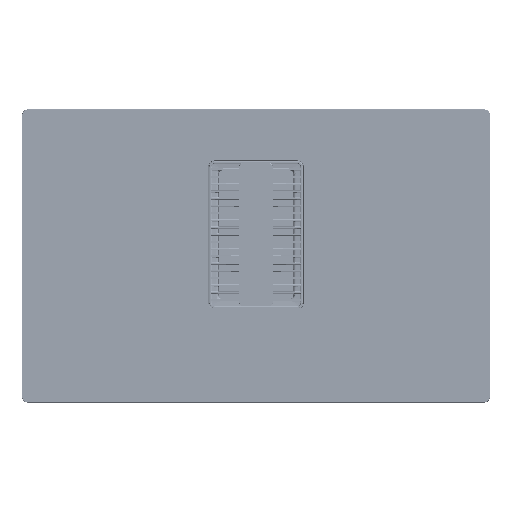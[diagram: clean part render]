
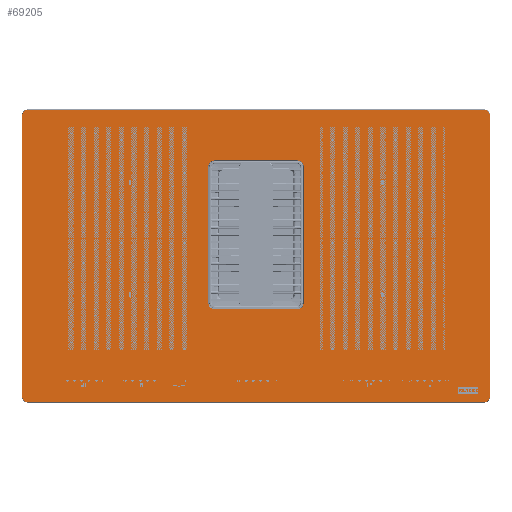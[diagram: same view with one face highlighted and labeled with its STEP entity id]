
A CAD part, top view. The second image highlights one B-rep face of the part: STEP entity #69205.
In plain terms, the highlighted planar face has unit normal (0, 0, 1) as drawn and (0, 1, 0) by its records, which use the part's own axes.
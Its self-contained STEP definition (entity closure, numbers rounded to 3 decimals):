
#30=TRIMMED_CURVE($,#914,(#1513810),(#1513811),.T.,.CARTESIAN.);
#37=TRIMMED_CURVE($,#921,(#1513833),(#1513834),.T.,.CARTESIAN.);
#44=TRIMMED_CURVE($,#928,(#1513856),(#1513857),.T.,.CARTESIAN.);
#51=TRIMMED_CURVE($,#935,(#1513879),(#1513880),.T.,.CARTESIAN.);
#58=TRIMMED_CURVE($,#942,(#1514024),(#1514025),.T.,.CARTESIAN.);
#63=TRIMMED_CURVE($,#947,(#1514039),(#1514040),.T.,.CARTESIAN.);
#67=TRIMMED_CURVE($,#951,(#1514051),(#1514052),.T.,.CARTESIAN.);
#71=TRIMMED_CURVE($,#955,(#1514063),(#1514064),.T.,.CARTESIAN.);
#914=CIRCLE('',#635811,9.372);
#921=CIRCLE('',#635818,9.372);
#928=CIRCLE('',#635825,9.372);
#935=CIRCLE('',#635832,9.372);
#942=CIRCLE('',#635839,11.628);
#947=CIRCLE('',#635844,11.628);
#951=CIRCLE('',#635848,11.628);
#955=CIRCLE('',#635852,11.628);
#3127=FACE_BOUND('',#116650,.T.);
#69205=ADVANCED_FACE('',(#92911,#3127),#611013,.T.);
#92911=FACE_OUTER_BOUND('',#116649,.T.);
#116649=EDGE_LOOP('',(#228670,#228671,#228672,#228673,#228674,#228675,#228676,
#228677));
#116650=EDGE_LOOP('',(#228678,#228679,#228680,#228681,#228682,#228683,#228684,
#228685));
#228670=ORIENTED_EDGE('',*,*,#347301,.T.);
#228671=ORIENTED_EDGE('',*,*,#347310,.T.);
#228672=ORIENTED_EDGE('',*,*,#347304,.T.);
#228673=ORIENTED_EDGE('',*,*,#347318,.T.);
#228674=ORIENTED_EDGE('',*,*,#347303,.T.);
#228675=ORIENTED_EDGE('',*,*,#347326,.T.);
#228676=ORIENTED_EDGE('',*,*,#347302,.T.);
#228677=ORIENTED_EDGE('',*,*,#347334,.T.);
#228678=ORIENTED_EDGE('',*,*,#347308,.T.);
#228679=ORIENTED_EDGE('',*,*,#347408,.T.);
#228680=ORIENTED_EDGE('',*,*,#347307,.T.);
#228681=ORIENTED_EDGE('',*,*,#347412,.T.);
#228682=ORIENTED_EDGE('',*,*,#347306,.T.);
#228683=ORIENTED_EDGE('',*,*,#347416,.T.);
#228684=ORIENTED_EDGE('',*,*,#347305,.T.);
#228685=ORIENTED_EDGE('',*,*,#347403,.T.);
#347301=EDGE_CURVE('',#586528,#586529,#472915,.T.);
#347302=EDGE_CURVE('',#586531,#586530,#472916,.T.);
#347303=EDGE_CURVE('',#586533,#586532,#472917,.T.);
#347304=EDGE_CURVE('',#586535,#586534,#472918,.T.);
#347305=EDGE_CURVE('',#586538,#586536,#472919,.T.);
#347306=EDGE_CURVE('',#586540,#586539,#472920,.T.);
#347307=EDGE_CURVE('',#586542,#586541,#472921,.T.);
#347308=EDGE_CURVE('',#586537,#586543,#472922,.T.);
#347310=EDGE_CURVE('',#586529,#586535,#30,.T.);
#347318=EDGE_CURVE('',#586534,#586533,#37,.T.);
#347326=EDGE_CURVE('',#586532,#586531,#44,.T.);
#347334=EDGE_CURVE('',#586530,#586528,#51,.T.);
#347403=EDGE_CURVE('',#586536,#586537,#58,.T.);
#347408=EDGE_CURVE('',#586543,#586542,#63,.T.);
#347412=EDGE_CURVE('',#586541,#586540,#67,.T.);
#347416=EDGE_CURVE('',#586539,#586538,#71,.T.);
#472915=B_SPLINE_CURVE_WITH_KNOTS('',1,(#1513791,#1513792),
 .UNSPECIFIED.,.F.,.F.,(2,2),(-810.,0.),.UNSPECIFIED.);
#472916=B_SPLINE_CURVE_WITH_KNOTS('',1,(#1513793,#1513794),
 .UNSPECIFIED.,.F.,.F.,(2,2),(-500.,0.),.UNSPECIFIED.);
#472917=B_SPLINE_CURVE_WITH_KNOTS('',1,(#1513795,#1513796),
 .UNSPECIFIED.,.F.,.F.,(2,2),(-810.,0.),.UNSPECIFIED.);
#472918=B_SPLINE_CURVE_WITH_KNOTS('',1,(#1513797,#1513798),
 .UNSPECIFIED.,.F.,.F.,(2,2),(-500.,0.),.UNSPECIFIED.);
#472919=B_SPLINE_CURVE_WITH_KNOTS('',1,(#1513799,#1513800),
 .UNSPECIFIED.,.F.,.F.,(2,2),(-146.,0.),.UNSPECIFIED.);
#472920=B_SPLINE_CURVE_WITH_KNOTS('',1,(#1513801,#1513802),
 .UNSPECIFIED.,.F.,.F.,(2,2),(-241.,0.),.UNSPECIFIED.);
#472921=B_SPLINE_CURVE_WITH_KNOTS('',1,(#1513803,#1513804),
 .UNSPECIFIED.,.F.,.F.,(2,2),(-146.,0.),.UNSPECIFIED.);
#472922=B_SPLINE_CURVE_WITH_KNOTS('',1,(#1513805,#1513806),
 .UNSPECIFIED.,.F.,.F.,(2,2),(-241.,0.),.UNSPECIFIED.);
#586528=VERTEX_POINT('',#1513635);
#586529=VERTEX_POINT('',#1513636);
#586530=VERTEX_POINT('',#1513637);
#586531=VERTEX_POINT('',#1513638);
#586532=VERTEX_POINT('',#1513639);
#586533=VERTEX_POINT('',#1513640);
#586534=VERTEX_POINT('',#1513641);
#586535=VERTEX_POINT('',#1513642);
#586536=VERTEX_POINT('',#1513643);
#586537=VERTEX_POINT('',#1513644);
#586538=VERTEX_POINT('',#1513645);
#586539=VERTEX_POINT('',#1513646);
#586540=VERTEX_POINT('',#1513647);
#586541=VERTEX_POINT('',#1513648);
#586542=VERTEX_POINT('',#1513649);
#586543=VERTEX_POINT('',#1513650);
#611013=PLANE('',#635737);
#635737=AXIS2_PLACEMENT_3D('',#1512589,#660028,$);
#635811=AXIS2_PLACEMENT_3D($,#1513809,#660102,#660103);
#635818=AXIS2_PLACEMENT_3D($,#1513832,#660116,#660117);
#635825=AXIS2_PLACEMENT_3D($,#1513855,#660130,#660131);
#635832=AXIS2_PLACEMENT_3D($,#1513878,#660144,#660145);
#635839=AXIS2_PLACEMENT_3D($,#1514023,#660158,#660159);
#635844=AXIS2_PLACEMENT_3D($,#1514038,#660168,#660169);
#635848=AXIS2_PLACEMENT_3D($,#1514050,#660176,#660177);
#635852=AXIS2_PLACEMENT_3D($,#1514062,#660184,#660185);
#660028=DIRECTION('',(0.,1.,0.));
#660102=DIRECTION('',(0.,1.,0.));
#660103=DIRECTION('',(0.,0.,-1.));
#660116=DIRECTION('',(0.,1.,0.));
#660117=DIRECTION('',(-1.,0.,0.));
#660130=DIRECTION('',(0.,1.,0.));
#660131=DIRECTION('',(0.,0.,1.));
#660144=DIRECTION('',(0.,1.,0.));
#660145=DIRECTION('',(1.,0.,0.));
#660158=DIRECTION('',(0.,-1.,0.));
#660159=DIRECTION('',(0.,0.,-1.));
#660168=DIRECTION('',(0.,-1.,0.));
#660169=DIRECTION('',(1.,0.,0.));
#660176=DIRECTION('',(0.,-1.,0.));
#660177=DIRECTION('',(0.,0.,1.));
#660184=DIRECTION('',(0.,-1.,0.));
#660185=DIRECTION('',(-1.,0.,0.));
#1512589=CARTESIAN_POINT('',(-497.345,0.,311.345));
#1513635=CARTESIAN_POINT('',(405.,0.,-259.372));
#1513636=CARTESIAN_POINT('',(-405.,0.,-259.372));
#1513637=CARTESIAN_POINT('',(414.372,0.,-250.));
#1513638=CARTESIAN_POINT('',(414.372,0.,250.));
#1513639=CARTESIAN_POINT('',(405.,0.,259.372));
#1513640=CARTESIAN_POINT('',(-405.,0.,259.372));
#1513641=CARTESIAN_POINT('',(-414.372,0.,250.));
#1513642=CARTESIAN_POINT('',(-414.372,0.,-250.));
#1513643=CARTESIAN_POINT('',(73.,0.,-169.628));
#1513644=CARTESIAN_POINT('',(84.628,0.,-158.));
#1513645=CARTESIAN_POINT('',(-73.,0.,-169.628));
#1513646=CARTESIAN_POINT('',(-84.628,0.,-158.));
#1513647=CARTESIAN_POINT('',(-84.628,0.,83.));
#1513648=CARTESIAN_POINT('',(-73.,0.,94.628));
#1513649=CARTESIAN_POINT('',(73.,0.,94.628));
#1513650=CARTESIAN_POINT('',(84.628,0.,83.));
#1513791=CARTESIAN_POINT('',(405.,0.,-259.372));
#1513792=CARTESIAN_POINT('',(-405.,0.,-259.372));
#1513793=CARTESIAN_POINT('',(414.372,0.,250.));
#1513794=CARTESIAN_POINT('',(414.372,0.,-250.));
#1513795=CARTESIAN_POINT('',(-405.,0.,259.372));
#1513796=CARTESIAN_POINT('',(405.,0.,259.372));
#1513797=CARTESIAN_POINT('',(-414.372,0.,-250.));
#1513798=CARTESIAN_POINT('',(-414.372,0.,250.));
#1513799=CARTESIAN_POINT('',(-73.,0.,-169.628));
#1513800=CARTESIAN_POINT('',(73.,0.,-169.628));
#1513801=CARTESIAN_POINT('',(-84.628,0.,83.));
#1513802=CARTESIAN_POINT('',(-84.628,0.,-158.));
#1513803=CARTESIAN_POINT('',(73.,0.,94.628));
#1513804=CARTESIAN_POINT('',(-73.,0.,94.628));
#1513805=CARTESIAN_POINT('',(84.628,0.,-158.));
#1513806=CARTESIAN_POINT('',(84.628,0.,83.));
#1513809=CARTESIAN_POINT('',(-405.,0.,-250.));
#1513810=CARTESIAN_POINT('',(-405.,0.,-259.372));
#1513811=CARTESIAN_POINT('',(-414.372,0.,-250.));
#1513832=CARTESIAN_POINT('',(-405.,0.,250.));
#1513833=CARTESIAN_POINT('',(-414.372,0.,250.));
#1513834=CARTESIAN_POINT('',(-405.,0.,259.372));
#1513855=CARTESIAN_POINT('',(405.,0.,250.));
#1513856=CARTESIAN_POINT('',(405.,0.,259.372));
#1513857=CARTESIAN_POINT('',(414.372,0.,250.));
#1513878=CARTESIAN_POINT('',(405.,0.,-250.));
#1513879=CARTESIAN_POINT('',(414.372,0.,-250.));
#1513880=CARTESIAN_POINT('',(405.,0.,-259.372));
#1514023=CARTESIAN_POINT('',(73.,0.,-158.));
#1514024=CARTESIAN_POINT('',(73.,0.,-169.628));
#1514025=CARTESIAN_POINT('',(84.628,0.,-158.));
#1514038=CARTESIAN_POINT('',(73.,0.,83.));
#1514039=CARTESIAN_POINT('',(84.628,0.,83.));
#1514040=CARTESIAN_POINT('',(73.,0.,94.628));
#1514050=CARTESIAN_POINT('',(-73.,0.,83.));
#1514051=CARTESIAN_POINT('',(-73.,0.,94.628));
#1514052=CARTESIAN_POINT('',(-84.628,0.,83.));
#1514062=CARTESIAN_POINT('',(-73.,0.,-158.));
#1514063=CARTESIAN_POINT('',(-84.628,0.,-158.));
#1514064=CARTESIAN_POINT('',(-73.,0.,-169.628));
